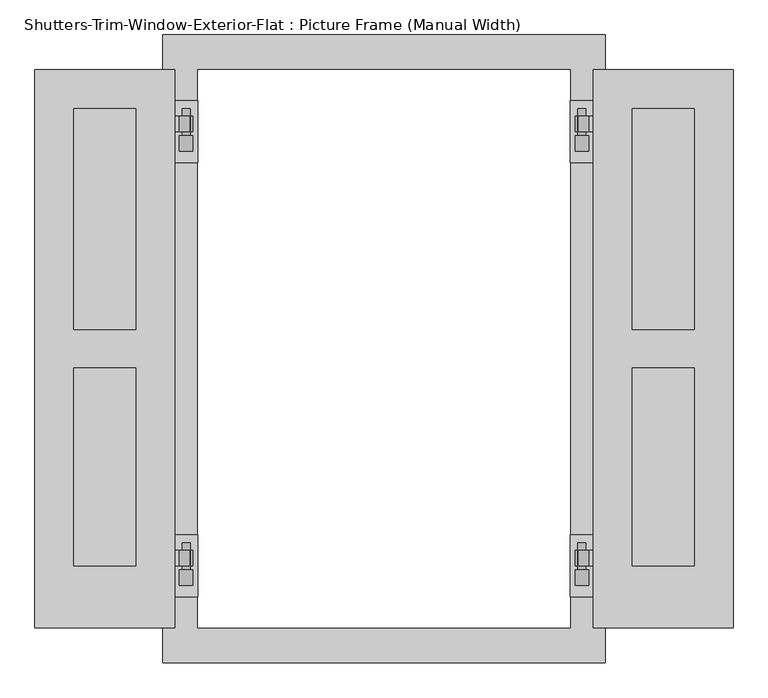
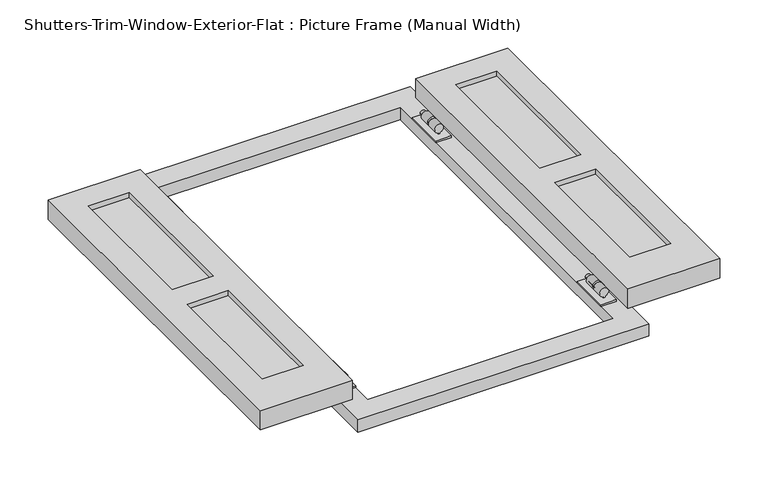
"""IFC4 building model written with IfcOpenShell, lengths in millimetres: proxy geometry, Shutters-Trim-Window-Exterior-Flat : Picture Frame (Manual Width)."""

from ifc_helpers import new_model, si_unit, frame, origin, origin_with_axes, place, context, project, spatial, polyline, circle_curve, outline, extrude, source, transform, mapped, element, save
from ifc_brep_helpers import plane_surface, cylinder_surface, revolved_surface, advanced_brep


def shutters_trim_window_exterior_flat_picture_frame_manual_0c29e27e(model_context):
    return source(origin(), model_context, "Body", "SolidModel", [
        extrude(outline(polyline([(-571.5, 0.0), (-342.9, 0.0), (-342.9, -914.4), (-571.5, -914.4), (-571.5, 0.0)]), holes=[polyline([(-508.0, -63.5), (-508.0, -425.45), (-406.4, -425.45), (-406.4, -63.5), (-508.0, -63.5)]), polyline([(-406.4, -488.95), (-508.0, -488.95), (-508.0, -812.8), (-406.4, -812.8), (-406.4, -488.95)])]), frame((0.0, 0.0, 44.45), z_axis=(0.0, 0.0, 1.0), x_axis=(1.0, 0.0, 0.0)), (0.0, 0.0, 1.0), 50.8),
        extrude(outline(polyline([(-508.0, -63.5), (-406.4, -63.5), (-406.4, -425.45), (-508.0, -425.45), (-508.0, -63.5)])), frame((0.0, 0.0, 57.15), z_axis=(0.0, 0.0, 1.0), x_axis=(1.0, 0.0, 0.0)), (0.0, 0.0, 1.0), 25.4),
        extrude(outline(polyline([(-406.4, -488.95), (-406.4, -812.8), (-508.0, -812.8), (-508.0, -488.95), (-406.4, -488.95)])), frame((0.0, 0.0, 57.15), z_axis=(0.0, 0.0, 1.0), x_axis=(1.0, 0.0, 0.0)), (0.0, 0.0, 1.0), 25.4),
        extrude(outline(polyline([(571.5, 0.0), (571.5, -914.4), (342.9, -914.4), (342.9, 0.0), (571.5, 0.0)]), holes=[polyline([(508.0, -63.5), (406.4, -63.5), (406.4, -425.45), (508.0, -425.45), (508.0, -63.5)]), polyline([(406.4, -488.95), (406.4, -812.8), (508.0, -812.8), (508.0, -488.95), (406.4, -488.95)])]), frame((0.0, 0.0, 44.45), z_axis=(0.0, 0.0, 1.0), x_axis=(1.0, 0.0, 0.0)), (0.0, 0.0, 1.0), 50.8),
        extrude(outline(polyline([(508.0, -63.5), (508.0, -425.45), (406.4, -425.45), (406.4, -63.5), (508.0, -63.5)])), frame((0.0, 0.0, 57.15), z_axis=(0.0, 0.0, 1.0), x_axis=(1.0, 0.0, 0.0)), (0.0, 0.0, 1.0), 25.4),
        extrude(outline(polyline([(406.4, -488.95), (508.0, -488.95), (508.0, -812.8), (406.4, -812.8), (406.4, -488.95)])), frame((0.0, 0.0, 57.15), z_axis=(0.0, 0.0, 1.0), x_axis=(1.0, 0.0, 0.0)), (0.0, 0.0, 1.0), 25.4),
        extrude(outline(polyline([(-342.9, -762.0), (-304.8, -762.0), (-304.8, -863.6), (-342.9, -863.6), (-342.9, -762.0)])), frame((0.0, 0.0, 31.75), z_axis=(0.0, 0.0, 1.0), x_axis=(1.0, 0.0, 0.0)), (0.0, 0.0, 1.0), 4.7625),
        advanced_brep(
        [(-388.9375, -774.7, 44.45), (-363.474, -774.7, 44.45), (-363.474, -774.7, 39.6875), (-388.9375, -774.7, 39.6875), (-388.9375, -825.5, 39.6875), (-363.474, -825.5, 39.6875), (-363.474, -825.5, 44.45), (-388.9375, -825.5, 44.45), (-363.474, -787.4, 39.6875), (-323.85, -787.4, 39.6875), (-323.85, -812.8, 39.6875), (-363.474, -812.8, 39.6875), (-363.474, -812.8, 44.45), (-323.85, -812.8, 44.45), (-323.85, -787.4, 44.45), (-363.474, -787.4, 44.45), (-330.2, -812.8, 50.8), (-330.2, -787.4, 50.8), (-330.2, -812.8, 46.0375), (-330.2, -787.4, 46.0375), (-334.9625, -812.8, 46.0375), (-334.9625, -787.4, 46.0375), (-334.9625, -812.8, 50.8), (-334.9625, -787.4, 50.8)],
        [
            (0, 1),
            (1, 2),
            (2, 3),
            (3, 0),
            (4, 5),
            (5, 6),
            (6, 7),
            (7, 4),
            (2, 8),
            (8, 9),
            (9, 10),
            (10, 11),
            (11, 5),
            (4, 3),
            (7, 0),
            (6, 12),
            (12, 13),
            (13, 14),
            (14, 15),
            (15, 1),
            (16, 17),
            (17, 14, circle_curve(frame((-323.85, -787.4, 50.8), z_axis=(0.0, 1.0, 0.0), x_axis=(1.0, 0.0, 0.0)), 6.35)),
            (13, 16, circle_curve(frame((-323.85, -812.8, 50.8), z_axis=(0.0, -1.0, 0.0), x_axis=(1.0, 0.0, 0.0)), 6.35)),
            (18, 19),
            (19, 17),
            (16, 18),
            (20, 21),
            (21, 19),
            (18, 20),
            (22, 23),
            (23, 21),
            (20, 22),
            (9, 23, circle_curve(frame((-323.85, -787.4, 50.8), z_axis=(0.0, -1.0, 0.0), x_axis=(1.0, 0.0, 0.0)), 11.1125)),
            (22, 10, circle_curve(frame((-323.85, -812.8, 50.8), z_axis=(0.0, 1.0, 0.0), x_axis=(1.0, 0.0, 0.0)), 11.1125)),
            (12, 11),
            (8, 15),
        ],
        [
            plane_surface(frame((-323.85, -774.7, 50.8), z_axis=(0.0, 1.0, 0.0), x_axis=(0.0, 0.0, 1.0))),
            plane_surface(frame((-323.85, -825.5, 50.8), z_axis=(0.0, -1.0, 0.0), x_axis=(0.0, 0.0, 1.0))),
            plane_surface(frame((-388.9375, -774.7, 39.6875), z_axis=(0.0, 0.0, -1.0), x_axis=(0.0, -1.0, 0.0))),
            plane_surface(frame((-388.9375, -774.7, 44.45), z_axis=(-1.0, 0.0, 0.0), x_axis=(0.0, -1.0, 0.0))),
            plane_surface(frame((-323.85, -774.7, 44.45), z_axis=(0.0, 0.0, 1.0), x_axis=(0.0, -1.0, 0.0))),
            revolved_surface(polyline([(-317.5, -812.8, 50.8), (-317.5, -787.4, 50.8)]), (-323.85, -774.7, 50.8), (0.0, -1.0, 0.0)),
            plane_surface(frame((-330.2, -774.7, 46.0375), z_axis=(1.0, 0.0, 0.0), x_axis=(0.0, -1.0, 0.0))),
            plane_surface(frame((-334.9625, -774.7, 46.0375), z_axis=(0.0, 0.0, -1.0), x_axis=(0.0, -1.0, 0.0))),
            plane_surface(frame((-334.9625, -774.7, 50.8), z_axis=(-1.0, 0.0, 0.0), x_axis=(0.0, -1.0, 0.0))),
            cylinder_surface(frame((-323.85, -774.7, 50.8), z_axis=(0.0, 1.0, 0.0), x_axis=(1.0, 0.0, 0.0)), 11.1125),
            plane_surface(frame((-323.85, -812.8, 50.8), z_axis=(0.0, -1.0, 0.0), x_axis=(0.0, 0.0, 1.0))),
            plane_surface(frame((-363.474, -812.8, 44.45), z_axis=(1.0, 0.0, 0.0), x_axis=(0.0, -1.0, 0.0))),
            plane_surface(frame((-323.85, -787.4, 50.8), z_axis=(0.0, 1.0, 0.0), x_axis=(0.0, 0.0, 1.0))),
            plane_surface(frame((-363.474, -774.7, 44.45), z_axis=(1.0, 0.0, 0.0), x_axis=(0.0, -1.0, 0.0))),
        ],
        [
            (0, [[1, 2, 3, 4]]),
            (1, [[5, 6, 7, 8]]),
            (2, [[-3, 9, 10, 11, 12, 13, -5, 14]]),
            (3, [[-14, -8, 15, -4]]),
            (4, [[-7, 16, 17, 18, 19, 20, -1, -15]]),
            (5, [[21, 22, -18, 23]]),
            (6, [[24, 25, -21, 26]]),
            (7, [[27, 28, -24, 29]]),
            (8, [[30, 31, -27, 32]]),
            (9, [[-11, 33, -30, 34]]),
            (10, [[-12, -34, -32, -29, -26, -23, -17, 35]]),
            (11, [[-16, -6, -13, -35]]),
            (12, [[-19, -22, -25, -28, -31, -33, -10, 36]]),
            (13, [[-9, -2, -20, -36]]),
        ],
    ),
        advanced_brep(
        [(-326.23125, -819.15, 36.5125), (-326.23125, -819.15, 39.945632), (-321.46875, -819.15, 39.945632), (-321.46875, -819.15, 36.5125), (-317.5, -819.15, 50.8), (-330.2, -819.15, 50.8), (-326.23125, -844.55, 36.5125), (-321.46875, -844.55, 36.5125), (-321.46875, -844.55, 39.945632), (-326.23125, -844.55, 39.945632), (-330.2, -774.7, 50.8), (-317.5, -774.7, 50.8)],
        [
            (0, 1),
            (1, 2, circle_curve(frame((-323.85, -819.15, 50.8), z_axis=(0.0, 1.0, 0.0), x_axis=(1.0, 0.0, 0.0)), 11.1125)),
            (2, 3),
            (3, 0),
            (4, 5, circle_curve(frame((-323.85, -819.15, 50.8), z_axis=(0.0, -1.0, 0.0), x_axis=(1.0, 0.0, 0.0)), 6.35)),
            (5, 4, circle_curve(frame((-323.85, -819.15, 50.8), z_axis=(0.0, -1.0, 0.0), x_axis=(1.0, 0.0, 0.0)), 6.35)),
            (6, 7),
            (7, 8),
            (8, 9, circle_curve(frame((-323.85, -844.55, 50.8), z_axis=(0.0, -1.0, 0.0), x_axis=(1.0, 0.0, 0.0)), 11.1125)),
            (9, 6),
            (0, 6),
            (9, 1),
            (3, 7),
            (2, 8),
            (10, 11, circle_curve(frame((-323.85, -774.7, 50.8), z_axis=(0.0, 1.0, 0.0), x_axis=(1.0, 0.0, 0.0)), 6.35)),
            (11, 10, circle_curve(frame((-323.85, -774.7, 50.8), z_axis=(0.0, 1.0, 0.0), x_axis=(1.0, 0.0, 0.0)), 6.35)),
            (11, 4),
            (5, 10),
        ],
        [
            plane_surface(frame((-321.46875, -819.15, 36.5125), z_axis=(0.0, 1.0, 0.0), x_axis=(1.0, 0.0, 6.2395484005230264e-12))),
            plane_surface(frame((-321.46875, -844.55, 36.5125), z_axis=(0.0, -1.0, 0.0), x_axis=(-1.0, 0.0, -6.2395484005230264e-12))),
            plane_surface(frame((-326.23125, -819.15, 39.945632), z_axis=(-1.0, 0.0, 0.0), x_axis=(0.0, -1.0, 0.0))),
            plane_surface(frame((-326.23125, -819.15, 36.5125), z_axis=(6.2395484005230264e-12, 0.0, -1.0), x_axis=(0.0, -1.0, 0.0))),
            plane_surface(frame((-321.46875, -819.15, 36.5125), z_axis=(1.0, 0.0, 0.0), x_axis=(0.0, -1.0, 0.0))),
            cylinder_surface(frame((-323.85, -844.55, 50.8), z_axis=(0.0, 1.0, 0.0), x_axis=(1.0, 0.0, 0.0)), 11.1125),
            plane_surface(frame((-317.5, -774.7, 50.8), z_axis=(0.0, 1.0, 0.0), x_axis=(0.0, 0.0, 1.0))),
            cylinder_surface(frame((-323.85, -844.55, 50.8), z_axis=(0.0, 1.0, 0.0), x_axis=(1.0, 0.0, 0.0)), 6.35),
        ],
        [
            (0, [[1, 2, 3, 4], [5, 6]]),
            (1, [[7, 8, 9, 10]]),
            (2, [[11, -10, 12, -1]]),
            (3, [[13, -7, -11, -4]]),
            (4, [[14, -8, -13, -3]]),
            (5, [[-12, -9, -14, -2]]),
            (6, [[15, 16]]),
            (7, [[17, -6, 18, -16]]),
            (7, [[-18, -5, -17, -15]]),
        ],
    ),
        extrude(outline(polyline([(342.9, -762.0), (342.9, -863.6), (304.8, -863.6), (304.8, -762.0), (342.9, -762.0)])), frame((0.0, 0.0, 31.75), z_axis=(0.0, 0.0, 1.0), x_axis=(1.0, 0.0, 0.0)), (0.0, 0.0, 1.0), 4.7625),
        advanced_brep(
        [(388.9375, -774.7, 44.45), (388.9375, -774.7, 39.6875), (363.474, -774.7, 39.6875), (363.474, -774.7, 44.45), (388.9375, -825.5, 39.6875), (388.9375, -825.5, 44.45), (363.474, -825.5, 44.45), (363.474, -825.5, 39.6875), (363.474, -812.8, 39.6875), (323.85, -812.8, 39.6875), (323.85, -787.4, 39.6875), (363.474, -787.4, 39.6875), (363.474, -787.4, 44.45), (323.85, -787.4, 44.45), (323.85, -812.8, 44.45), (363.474, -812.8, 44.45), (330.2, -812.8, 50.8), (330.2, -787.4, 50.8), (330.2, -812.8, 46.0375), (330.2, -787.4, 46.0375), (334.9625, -812.8, 46.0375), (334.9625, -787.4, 46.0375), (334.9625, -812.8, 50.8), (334.9625, -787.4, 50.8)],
        [
            (0, 1),
            (1, 2),
            (2, 3),
            (3, 0),
            (4, 5),
            (5, 6),
            (6, 7),
            (7, 4),
            (1, 4),
            (7, 8),
            (8, 9),
            (9, 10),
            (10, 11),
            (11, 2),
            (0, 5),
            (3, 12),
            (12, 13),
            (13, 14),
            (14, 15),
            (15, 6),
            (16, 14, circle_curve(frame((323.85, -812.8, 50.8), z_axis=(0.0, -1.0, 0.0), x_axis=(-1.0, 0.0, 0.0)), 6.35)),
            (13, 17, circle_curve(frame((323.85, -787.4, 50.8), z_axis=(0.0, 1.0, 0.0), x_axis=(-1.0, 0.0, 0.0)), 6.35)),
            (17, 16),
            (18, 16),
            (17, 19),
            (19, 18),
            (20, 18),
            (19, 21),
            (21, 20),
            (22, 20),
            (21, 23),
            (23, 22),
            (9, 22, circle_curve(frame((323.85, -812.8, 50.8), z_axis=(0.0, 1.0, 0.0), x_axis=(-1.0, 0.0, 0.0)), 11.1125)),
            (23, 10, circle_curve(frame((323.85, -787.4, 50.8), z_axis=(0.0, -1.0, 0.0), x_axis=(-1.0, 0.0, 0.0)), 11.1125)),
            (8, 15),
            (12, 11),
        ],
        [
            plane_surface(frame((323.85, -774.7, 50.8), z_axis=(0.0, 1.0, 0.0), x_axis=(0.0, 0.0, 1.0))),
            plane_surface(frame((323.85, -825.5, 50.8), z_axis=(0.0, -1.0, 0.0), x_axis=(0.0, 0.0, 1.0))),
            plane_surface(frame((388.9375, -774.7, 39.6875), z_axis=(0.0, 0.0, -1.0), x_axis=(0.0, -1.0, 0.0))),
            plane_surface(frame((388.9375, -774.7, 44.45), z_axis=(1.0, 0.0, 0.0), x_axis=(0.0, -1.0, 0.0))),
            plane_surface(frame((323.85, -774.7, 44.45), z_axis=(0.0, 0.0, 1.0), x_axis=(0.0, -1.0, 0.0))),
            revolved_surface(polyline([(317.5, -812.8, 50.8), (317.5, -787.4, 50.8)]), (323.85, -774.7, 50.8), (0.0, -1.0, 0.0)),
            plane_surface(frame((330.2, -774.7, 46.0375), z_axis=(-1.0, 0.0, 0.0), x_axis=(0.0, -1.0, 0.0))),
            plane_surface(frame((334.9625, -774.7, 46.0375), z_axis=(0.0, 0.0, -1.0), x_axis=(0.0, -1.0, 0.0))),
            plane_surface(frame((334.9625, -774.7, 50.8), z_axis=(1.0, 0.0, 0.0), x_axis=(0.0, -1.0, 0.0))),
            cylinder_surface(frame((323.85, -774.7, 50.8), z_axis=(0.0, 1.0, 0.0), x_axis=(-1.0, 0.0, 0.0)), 11.1125),
            plane_surface(frame((323.85, -812.8, 50.8), z_axis=(0.0, -1.0, 0.0), x_axis=(0.0, 0.0, 1.0))),
            plane_surface(frame((363.474, -812.8, 44.45), z_axis=(-1.0, 0.0, 0.0), x_axis=(0.0, -1.0, 0.0))),
            plane_surface(frame((323.85, -787.4, 50.8), z_axis=(0.0, 1.0, 0.0), x_axis=(0.0, 0.0, 1.0))),
            plane_surface(frame((363.474, -774.7, 44.45), z_axis=(-1.0, 0.0, 0.0), x_axis=(0.0, -1.0, 0.0))),
        ],
        [
            (0, [[1, 2, 3, 4]]),
            (1, [[5, 6, 7, 8]]),
            (2, [[9, -8, 10, 11, 12, 13, 14, -2]]),
            (3, [[-1, 15, -5, -9]]),
            (4, [[-15, -4, 16, 17, 18, 19, 20, -6]]),
            (5, [[21, -18, 22, 23]]),
            (6, [[24, -23, 25, 26]]),
            (7, [[27, -26, 28, 29]]),
            (8, [[30, -29, 31, 32]]),
            (9, [[33, -32, 34, -12]]),
            (10, [[35, -19, -21, -24, -27, -30, -33, -11]]),
            (11, [[-35, -10, -7, -20]]),
            (12, [[36, -13, -34, -31, -28, -25, -22, -17]]),
            (13, [[-36, -16, -3, -14]]),
        ],
    ),
        advanced_brep(
        [(326.23125, -819.15, 36.5125), (321.46875, -819.15, 36.5125), (321.46875, -819.15, 39.945632), (326.23125, -819.15, 39.945632), (317.5, -819.15, 50.8), (330.2, -819.15, 50.8), (326.23125, -844.55, 36.5125), (326.23125, -844.55, 39.945632), (321.46875, -844.55, 39.945632), (321.46875, -844.55, 36.5125), (330.2, -774.7, 50.8), (317.5, -774.7, 50.8)],
        [
            (0, 1),
            (1, 2),
            (2, 3, circle_curve(frame((323.85, -819.15, 50.8), z_axis=(0.0, 1.0, 0.0), x_axis=(-1.0, 0.0, 0.0)), 11.1125)),
            (3, 0),
            (4, 5, circle_curve(frame((323.85, -819.15, 50.8), z_axis=(0.0, -1.0, 0.0), x_axis=(-1.0, 0.0, 0.0)), 6.35)),
            (5, 4, circle_curve(frame((323.85, -819.15, 50.8), z_axis=(0.0, -1.0, 0.0), x_axis=(-1.0, 0.0, 0.0)), 6.35)),
            (6, 7),
            (7, 8, circle_curve(frame((323.85, -844.55, 50.8), z_axis=(0.0, -1.0, 0.0), x_axis=(-1.0, 0.0, 0.0)), 11.1125)),
            (8, 9),
            (9, 6),
            (3, 7),
            (6, 0),
            (9, 1),
            (8, 2),
            (10, 11, circle_curve(frame((323.85, -774.7, 50.8), z_axis=(0.0, 1.0, 0.0), x_axis=(-1.0, 0.0, 0.0)), 6.35)),
            (11, 10, circle_curve(frame((323.85, -774.7, 50.8), z_axis=(0.0, 1.0, 0.0), x_axis=(-1.0, 0.0, 0.0)), 6.35)),
            (10, 5),
            (4, 11),
        ],
        [
            plane_surface(frame((321.46875, -819.15, 36.5125), z_axis=(0.0, 1.0, 0.0), x_axis=(-1.0, 0.0, 6.24601973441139e-12))),
            plane_surface(frame((321.46875, -844.55, 36.5125), z_axis=(0.0, -1.0, 0.0), x_axis=(1.0, 0.0, -6.24601973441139e-12))),
            plane_surface(frame((326.23125, -819.15, 39.945632), z_axis=(1.0, 0.0, 0.0), x_axis=(0.0, -1.0, 0.0))),
            plane_surface(frame((326.23125, -819.15, 36.5125), z_axis=(-6.24601973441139e-12, 0.0, -1.0), x_axis=(0.0, -1.0, 0.0))),
            plane_surface(frame((321.46875, -819.15, 36.5125), z_axis=(-1.0, 0.0, 0.0), x_axis=(0.0, -1.0, 0.0))),
            cylinder_surface(frame((323.85, -844.55, 50.8), z_axis=(0.0, 1.0, 0.0), x_axis=(-1.0, 0.0, 0.0)), 11.1125),
            plane_surface(frame((317.5, -774.7, 50.8), z_axis=(0.0, 1.0, 0.0), x_axis=(0.0, 0.0, 1.0))),
            cylinder_surface(frame((323.85, -844.55, 50.8), z_axis=(0.0, 1.0, 0.0), x_axis=(-1.0, 0.0, 0.0)), 6.35),
        ],
        [
            (0, [[1, 2, 3, 4], [5, 6]]),
            (1, [[7, 8, 9, 10]]),
            (2, [[-4, 11, -7, 12]]),
            (3, [[-1, -12, -10, 13]]),
            (4, [[-2, -13, -9, 14]]),
            (5, [[-3, -14, -8, -11]]),
            (6, [[15, 16]]),
            (7, [[-15, 17, -5, 18]]),
            (7, [[-16, -18, -6, -17]]),
        ],
    ),
        extrude(outline(polyline([(342.9, -50.8), (342.9, -152.4), (304.8, -152.4), (304.8, -50.8), (342.9, -50.8)])), frame((0.0, 0.0, 31.75), z_axis=(0.0, 0.0, 1.0), x_axis=(1.0, 0.0, 0.0)), (0.0, 0.0, 1.0), 4.7625),
        advanced_brep(
        [(388.9375, -63.5, 44.45), (388.9375, -63.5, 39.6875), (363.474, -63.5, 39.6875), (363.474, -63.5, 44.45), (388.9375, -114.3, 39.6875), (388.9375, -114.3, 44.45), (363.474, -114.3, 44.45), (363.474, -114.3, 39.6875), (363.474, -101.6, 39.6875), (323.85, -101.6, 39.6875), (323.85, -76.2, 39.6875), (363.474, -76.2, 39.6875), (363.474, -76.2, 44.45), (323.85, -76.2, 44.45), (323.85, -101.6, 44.45), (363.474, -101.6, 44.45), (330.2, -101.6, 50.8), (330.2, -76.2, 50.8), (330.2, -101.6, 46.0375), (330.2, -76.2, 46.0375), (334.9625, -101.6, 46.0375), (334.9625, -76.2, 46.0375), (334.9625, -101.6, 50.8), (334.9625, -76.2, 50.8)],
        [
            (0, 1),
            (1, 2),
            (2, 3),
            (3, 0),
            (4, 5),
            (5, 6),
            (6, 7),
            (7, 4),
            (1, 4),
            (7, 8),
            (8, 9),
            (9, 10),
            (10, 11),
            (11, 2),
            (0, 5),
            (3, 12),
            (12, 13),
            (13, 14),
            (14, 15),
            (15, 6),
            (16, 14, circle_curve(frame((323.85, -101.6, 50.8), z_axis=(0.0, -1.0, 0.0), x_axis=(-1.0, 0.0, 0.0)), 6.35)),
            (13, 17, circle_curve(frame((323.85, -76.2, 50.8), z_axis=(0.0, 1.0, 0.0), x_axis=(-1.0, 0.0, 0.0)), 6.35)),
            (17, 16),
            (18, 16),
            (17, 19),
            (19, 18),
            (20, 18),
            (19, 21),
            (21, 20),
            (22, 20),
            (21, 23),
            (23, 22),
            (9, 22, circle_curve(frame((323.85, -101.6, 50.8), z_axis=(0.0, 1.0, 0.0), x_axis=(-1.0, 0.0, 0.0)), 11.1125)),
            (23, 10, circle_curve(frame((323.85, -76.2, 50.8), z_axis=(0.0, -1.0, 0.0), x_axis=(-1.0, 0.0, 0.0)), 11.1125)),
            (8, 15),
            (12, 11),
        ],
        [
            plane_surface(frame((323.85, -63.5, 50.8), z_axis=(0.0, 1.0, 0.0), x_axis=(0.0, 0.0, 1.0))),
            plane_surface(frame((323.85, -114.3, 50.8), z_axis=(0.0, -1.0, 0.0), x_axis=(0.0, 0.0, 1.0))),
            plane_surface(frame((388.9375, -63.5, 39.6875), z_axis=(0.0, 0.0, -1.0), x_axis=(0.0, -1.0, 0.0))),
            plane_surface(frame((388.9375, -63.5, 44.45), z_axis=(1.0, 0.0, 0.0), x_axis=(0.0, -1.0, 0.0))),
            plane_surface(frame((323.85, -63.5, 44.45), z_axis=(0.0, 0.0, 1.0), x_axis=(0.0, -1.0, 0.0))),
            revolved_surface(polyline([(317.5, -101.6, 50.8), (317.5, -76.2, 50.8)]), (323.85, -63.5, 50.8), (0.0, -1.0, 0.0)),
            plane_surface(frame((330.2, -63.5, 46.0375), z_axis=(-1.0, 0.0, 0.0), x_axis=(0.0, -1.0, 0.0))),
            plane_surface(frame((334.9625, -63.5, 46.0375), z_axis=(0.0, 0.0, -1.0), x_axis=(0.0, -1.0, 0.0))),
            plane_surface(frame((334.9625, -63.5, 50.8), z_axis=(1.0, 0.0, 0.0), x_axis=(0.0, -1.0, 0.0))),
            cylinder_surface(frame((323.85, -63.5, 50.8), z_axis=(0.0, 1.0, 0.0), x_axis=(-1.0, 0.0, 0.0)), 11.1125),
            plane_surface(frame((323.85, -101.6, 50.8), z_axis=(0.0, -1.0, 0.0), x_axis=(0.0, 0.0, 1.0))),
            plane_surface(frame((363.474, -101.6, 44.45), z_axis=(-1.0, 0.0, 0.0), x_axis=(0.0, -1.0, 0.0))),
            plane_surface(frame((323.85, -76.2, 50.8), z_axis=(0.0, 1.0, 0.0), x_axis=(0.0, 0.0, 1.0))),
            plane_surface(frame((363.474, -63.5, 44.45), z_axis=(-1.0, 0.0, 0.0), x_axis=(0.0, -1.0, 0.0))),
        ],
        [
            (0, [[1, 2, 3, 4]]),
            (1, [[5, 6, 7, 8]]),
            (2, [[9, -8, 10, 11, 12, 13, 14, -2]]),
            (3, [[-1, 15, -5, -9]]),
            (4, [[-15, -4, 16, 17, 18, 19, 20, -6]]),
            (5, [[21, -18, 22, 23]]),
            (6, [[24, -23, 25, 26]]),
            (7, [[27, -26, 28, 29]]),
            (8, [[30, -29, 31, 32]]),
            (9, [[33, -32, 34, -12]]),
            (10, [[35, -19, -21, -24, -27, -30, -33, -11]]),
            (11, [[-35, -10, -7, -20]]),
            (12, [[36, -13, -34, -31, -28, -25, -22, -17]]),
            (13, [[-36, -16, -3, -14]]),
        ],
    ),
        advanced_brep(
        [(326.23125, -107.95, 36.5125), (321.46875, -107.95, 36.5125), (321.46875, -107.95, 39.945632), (326.23125, -107.95, 39.945632), (317.5, -107.95, 50.8), (330.2, -107.95, 50.8), (326.23125, -133.35, 36.5125), (326.23125, -133.35, 39.945632), (321.46875, -133.35, 39.945632), (321.46875, -133.35, 36.5125), (330.2, -63.5, 50.8), (317.5, -63.5, 50.8)],
        [
            (0, 1),
            (1, 2),
            (2, 3, circle_curve(frame((323.85, -107.95, 50.8), z_axis=(0.0, 1.0, 0.0), x_axis=(-1.0, 0.0, 0.0)), 11.1125)),
            (3, 0),
            (4, 5, circle_curve(frame((323.85, -107.95, 50.8), z_axis=(0.0, -1.0, 0.0), x_axis=(-1.0, 0.0, 0.0)), 6.35)),
            (5, 4, circle_curve(frame((323.85, -107.95, 50.8), z_axis=(0.0, -1.0, 0.0), x_axis=(-1.0, 0.0, 0.0)), 6.35)),
            (6, 7),
            (7, 8, circle_curve(frame((323.85, -133.35, 50.8), z_axis=(0.0, -1.0, 0.0), x_axis=(-1.0, 0.0, 0.0)), 11.1125)),
            (8, 9),
            (9, 6),
            (3, 7),
            (6, 0),
            (9, 1),
            (8, 2),
            (10, 11, circle_curve(frame((323.85, -63.5, 50.8), z_axis=(0.0, 1.0, 0.0), x_axis=(-1.0, 0.0, 0.0)), 6.35)),
            (11, 10, circle_curve(frame((323.85, -63.5, 50.8), z_axis=(0.0, 1.0, 0.0), x_axis=(-1.0, 0.0, 0.0)), 6.35)),
            (10, 5),
            (4, 11),
        ],
        [
            plane_surface(frame((321.46875, -107.95, 36.5125), z_axis=(0.0, 1.0, 0.0), x_axis=(-1.0, 0.0, 6.24601973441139e-12))),
            plane_surface(frame((321.46875, -133.35, 36.5125), z_axis=(0.0, -1.0, 0.0), x_axis=(1.0, 0.0, -6.24601973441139e-12))),
            plane_surface(frame((326.23125, -107.95, 39.945632), z_axis=(1.0, 0.0, 0.0), x_axis=(0.0, -1.0, 0.0))),
            plane_surface(frame((326.23125, -107.95, 36.5125), z_axis=(-6.24601973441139e-12, 0.0, -1.0), x_axis=(0.0, -1.0, 0.0))),
            plane_surface(frame((321.46875, -107.95, 36.5125), z_axis=(-1.0, 0.0, 0.0), x_axis=(0.0, -1.0, 0.0))),
            cylinder_surface(frame((323.85, -133.35, 50.8), z_axis=(0.0, 1.0, 0.0), x_axis=(-1.0, 0.0, 0.0)), 11.1125),
            plane_surface(frame((317.5, -63.5, 50.8), z_axis=(0.0, 1.0, 0.0), x_axis=(0.0, 0.0, 1.0))),
            cylinder_surface(frame((323.85, -133.35, 50.8), z_axis=(0.0, 1.0, 0.0), x_axis=(-1.0, 0.0, 0.0)), 6.35),
        ],
        [
            (0, [[1, 2, 3, 4], [5, 6]]),
            (1, [[7, 8, 9, 10]]),
            (2, [[-4, 11, -7, 12]]),
            (3, [[-1, -12, -10, 13]]),
            (4, [[-2, -13, -9, 14]]),
            (5, [[-3, -14, -8, -11]]),
            (6, [[15, 16]]),
            (7, [[-15, 17, -5, 18]]),
            (7, [[-16, -18, -6, -17]]),
        ],
    ),
        extrude(outline(polyline([(-342.9, -50.8), (-304.8, -50.8), (-304.8, -152.4), (-342.9, -152.4), (-342.9, -50.8)])), frame((0.0, 0.0, 31.75), z_axis=(0.0, 0.0, 1.0), x_axis=(1.0, 0.0, 0.0)), (0.0, 0.0, 1.0), 4.7625),
        advanced_brep(
        [(-388.9375, -63.5, 44.45), (-363.474, -63.5, 44.45), (-363.474, -63.5, 39.6875), (-388.9375, -63.5, 39.6875), (-388.9375, -114.3, 39.6875), (-363.474, -114.3, 39.6875), (-363.474, -114.3, 44.45), (-388.9375, -114.3, 44.45), (-363.474, -76.2, 39.6875), (-323.85, -76.2, 39.6875), (-323.85, -101.6, 39.6875), (-363.474, -101.6, 39.6875), (-363.474, -101.6, 44.45), (-323.85, -101.6, 44.45), (-323.85, -76.2, 44.45), (-363.474, -76.2, 44.45), (-330.2, -101.6, 50.8), (-330.2, -76.2, 50.8), (-330.2, -101.6, 46.0375), (-330.2, -76.2, 46.0375), (-334.9625, -101.6, 46.0375), (-334.9625, -76.2, 46.0375), (-334.9625, -101.6, 50.8), (-334.9625, -76.2, 50.8)],
        [
            (0, 1),
            (1, 2),
            (2, 3),
            (3, 0),
            (4, 5),
            (5, 6),
            (6, 7),
            (7, 4),
            (2, 8),
            (8, 9),
            (9, 10),
            (10, 11),
            (11, 5),
            (4, 3),
            (7, 0),
            (6, 12),
            (12, 13),
            (13, 14),
            (14, 15),
            (15, 1),
            (16, 17),
            (17, 14, circle_curve(frame((-323.85, -76.2, 50.8), z_axis=(0.0, 1.0, 0.0), x_axis=(1.0, 0.0, 0.0)), 6.35)),
            (13, 16, circle_curve(frame((-323.85, -101.6, 50.8), z_axis=(0.0, -1.0, 0.0), x_axis=(1.0, 0.0, 0.0)), 6.35)),
            (18, 19),
            (19, 17),
            (16, 18),
            (20, 21),
            (21, 19),
            (18, 20),
            (22, 23),
            (23, 21),
            (20, 22),
            (9, 23, circle_curve(frame((-323.85, -76.2, 50.8), z_axis=(0.0, -1.0, 0.0), x_axis=(1.0, 0.0, 0.0)), 11.1125)),
            (22, 10, circle_curve(frame((-323.85, -101.6, 50.8), z_axis=(0.0, 1.0, 0.0), x_axis=(1.0, 0.0, 0.0)), 11.1125)),
            (12, 11),
            (8, 15),
        ],
        [
            plane_surface(frame((-323.85, -63.5, 50.8), z_axis=(0.0, 1.0, 0.0), x_axis=(0.0, 0.0, 1.0))),
            plane_surface(frame((-323.85, -114.3, 50.8), z_axis=(0.0, -1.0, 0.0), x_axis=(0.0, 0.0, 1.0))),
            plane_surface(frame((-388.9375, -63.5, 39.6875), z_axis=(0.0, 0.0, -1.0), x_axis=(0.0, -1.0, 0.0))),
            plane_surface(frame((-388.9375, -63.5, 44.45), z_axis=(-1.0, 0.0, 0.0), x_axis=(0.0, -1.0, 0.0))),
            plane_surface(frame((-323.85, -63.5, 44.45), z_axis=(0.0, 0.0, 1.0), x_axis=(0.0, -1.0, 0.0))),
            revolved_surface(polyline([(-317.5, -101.6, 50.8), (-317.5, -76.2, 50.8)]), (-323.85, -63.5, 50.8), (0.0, -1.0, 0.0)),
            plane_surface(frame((-330.2, -63.5, 46.0375), z_axis=(1.0, 0.0, 0.0), x_axis=(0.0, -1.0, 0.0))),
            plane_surface(frame((-334.9625, -63.5, 46.0375), z_axis=(0.0, 0.0, -1.0), x_axis=(0.0, -1.0, 0.0))),
            plane_surface(frame((-334.9625, -63.5, 50.8), z_axis=(-1.0, 0.0, 0.0), x_axis=(0.0, -1.0, 0.0))),
            cylinder_surface(frame((-323.85, -63.5, 50.8), z_axis=(0.0, 1.0, 0.0), x_axis=(1.0, 0.0, 0.0)), 11.1125),
            plane_surface(frame((-323.85, -101.6, 50.8), z_axis=(0.0, -1.0, 0.0), x_axis=(0.0, 0.0, 1.0))),
            plane_surface(frame((-363.474, -101.6, 44.45), z_axis=(1.0, 0.0, 0.0), x_axis=(0.0, -1.0, 0.0))),
            plane_surface(frame((-323.85, -76.2, 50.8), z_axis=(0.0, 1.0, 0.0), x_axis=(0.0, 0.0, 1.0))),
            plane_surface(frame((-363.474, -63.5, 44.45), z_axis=(1.0, 0.0, 0.0), x_axis=(0.0, -1.0, 0.0))),
        ],
        [
            (0, [[1, 2, 3, 4]]),
            (1, [[5, 6, 7, 8]]),
            (2, [[-3, 9, 10, 11, 12, 13, -5, 14]]),
            (3, [[-14, -8, 15, -4]]),
            (4, [[-7, 16, 17, 18, 19, 20, -1, -15]]),
            (5, [[21, 22, -18, 23]]),
            (6, [[24, 25, -21, 26]]),
            (7, [[27, 28, -24, 29]]),
            (8, [[30, 31, -27, 32]]),
            (9, [[-11, 33, -30, 34]]),
            (10, [[-12, -34, -32, -29, -26, -23, -17, 35]]),
            (11, [[-16, -6, -13, -35]]),
            (12, [[-19, -22, -25, -28, -31, -33, -10, 36]]),
            (13, [[-9, -2, -20, -36]]),
        ],
    ),
        advanced_brep(
        [(-326.23125, -107.95, 36.5125), (-326.23125, -107.95, 39.945632), (-321.46875, -107.95, 39.945632), (-321.46875, -107.95, 36.5125), (-317.5, -107.95, 50.8), (-330.2, -107.95, 50.8), (-326.23125, -133.35, 36.5125), (-321.46875, -133.35, 36.5125), (-321.46875, -133.35, 39.945632), (-326.23125, -133.35, 39.945632), (-330.2, -63.5, 50.8), (-317.5, -63.5, 50.8)],
        [
            (0, 1),
            (1, 2, circle_curve(frame((-323.85, -107.95, 50.8), z_axis=(0.0, 1.0, 0.0), x_axis=(1.0, 0.0, 0.0)), 11.1125)),
            (2, 3),
            (3, 0),
            (4, 5, circle_curve(frame((-323.85, -107.95, 50.8), z_axis=(0.0, -1.0, 0.0), x_axis=(1.0, 0.0, 0.0)), 6.35)),
            (5, 4, circle_curve(frame((-323.85, -107.95, 50.8), z_axis=(0.0, -1.0, 0.0), x_axis=(1.0, 0.0, 0.0)), 6.35)),
            (6, 7),
            (7, 8),
            (8, 9, circle_curve(frame((-323.85, -133.35, 50.8), z_axis=(0.0, -1.0, 0.0), x_axis=(1.0, 0.0, 0.0)), 11.1125)),
            (9, 6),
            (0, 6),
            (9, 1),
            (3, 7),
            (2, 8),
            (10, 11, circle_curve(frame((-323.85, -63.5, 50.8), z_axis=(0.0, 1.0, 0.0), x_axis=(1.0, 0.0, 0.0)), 6.35)),
            (11, 10, circle_curve(frame((-323.85, -63.5, 50.8), z_axis=(0.0, 1.0, 0.0), x_axis=(1.0, 0.0, 0.0)), 6.35)),
            (11, 4),
            (5, 10),
        ],
        [
            plane_surface(frame((-321.46875, -107.95, 36.5125), z_axis=(0.0, 1.0, 0.0), x_axis=(1.0, 0.0, 6.2395484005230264e-12))),
            plane_surface(frame((-321.46875, -133.35, 36.5125), z_axis=(0.0, -1.0, 0.0), x_axis=(-1.0, 0.0, -6.2395484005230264e-12))),
            plane_surface(frame((-326.23125, -107.95, 39.945632), z_axis=(-1.0, 0.0, 0.0), x_axis=(0.0, -1.0, 0.0))),
            plane_surface(frame((-326.23125, -107.95, 36.5125), z_axis=(6.2395484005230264e-12, 0.0, -1.0), x_axis=(0.0, -1.0, 0.0))),
            plane_surface(frame((-321.46875, -107.95, 36.5125), z_axis=(1.0, 0.0, 0.0), x_axis=(0.0, -1.0, 0.0))),
            cylinder_surface(frame((-323.85, -133.35, 50.8), z_axis=(0.0, 1.0, 0.0), x_axis=(1.0, 0.0, 0.0)), 11.1125),
            plane_surface(frame((-317.5, -63.5, 50.8), z_axis=(0.0, 1.0, 0.0), x_axis=(0.0, 0.0, 1.0))),
            cylinder_surface(frame((-323.85, -133.35, 50.8), z_axis=(0.0, 1.0, 0.0), x_axis=(1.0, 0.0, 0.0)), 6.35),
        ],
        [
            (0, [[1, 2, 3, 4], [5, 6]]),
            (1, [[7, 8, 9, 10]]),
            (2, [[11, -10, 12, -1]]),
            (3, [[13, -7, -11, -4]]),
            (4, [[14, -8, -13, -3]]),
            (5, [[-12, -9, -14, -2]]),
            (6, [[15, 16]]),
            (7, [[17, -6, 18, -16]]),
            (7, [[-18, -5, -17, -15]]),
        ],
    ),
        extrude(outline(polyline([(361.95, 57.15), (361.95, -971.55), (-361.95, -971.55), (-361.95, 57.15), (361.95, 57.15)]), holes=[polyline([(304.8, 0.0), (-304.8, 0.0), (-304.8, -914.4), (304.8, -914.4), (304.8, 0.0)])]), origin_with_axes(), (0.0, 0.0, 1.0), 31.75),
    ])


if __name__ == "__main__":
    model = new_model("IFC4")
    model_context = context("Model", 3, world=origin())
    ifc_project = project(units=[si_unit("LENGTHUNIT", "METRE", prefix="MILLI")], contexts=[model_context])
    site = spatial("IfcSite", under=ifc_project)
    building = spatial("IfcBuilding", under=site)
    placement = place(None, origin())
    shutters_trim_window_exterior_flat_picture_frame_manual_shape = shutters_trim_window_exterior_flat_picture_frame_manual_0c29e27e(model_context)
    element("IfcBuildingElementProxy", 1, Name="Shutters-Trim-Window-Exterior-Flat : Picture Frame (Manual Width)", ObjectType="Shutters-Trim-Window-Exterior-Flat : Picture Frame (Manual Width)", at=placement, inside=building, context=model_context, shape_type="MappedRepresentation", body=[
        mapped(shutters_trim_window_exterior_flat_picture_frame_manual_shape, transform((0.0, 0.0, 0.0), x_axis=(1.0, 0.0, 0.0), y_axis=(0.0, 1.0, 0.0), z_axis=(0.0, 0.0, 1.0))),
    ])
    save(model, "model.ifc")
